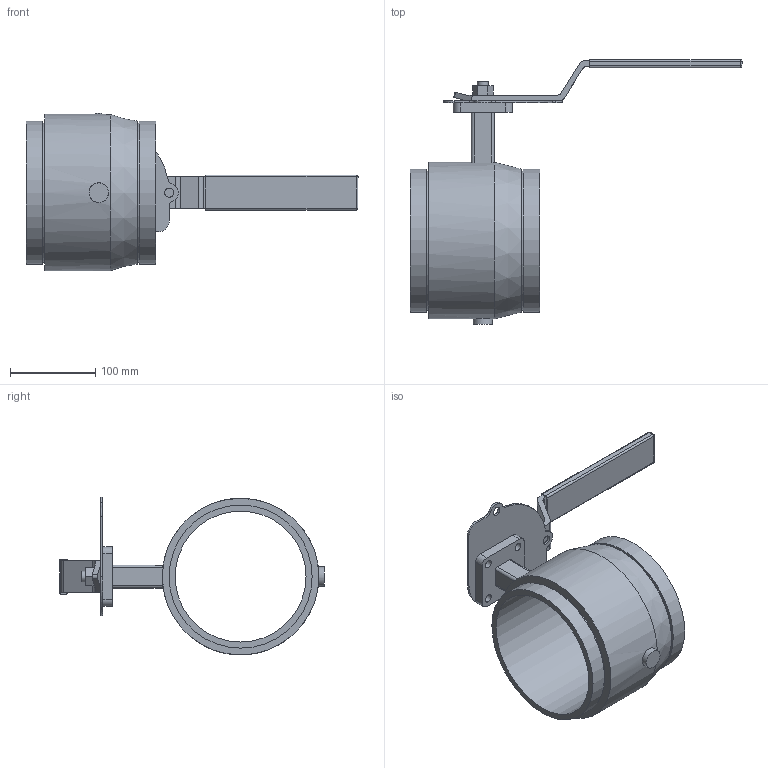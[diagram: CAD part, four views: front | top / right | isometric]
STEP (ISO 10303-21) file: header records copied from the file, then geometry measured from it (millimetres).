
FILE_DESCRIPTION(/* description */ ('VIC STRENGTHIN 300 MASTERSEAL BUTTERFLY VALVE E461 w/LH','CAx-IF Rec.Pracs.---Representation and Presentation of Product Manufacturing Information (PMI)---4.0---2014-10-13'),/* implementation_level */ '2;1');
FILE_NAME(/* name */ 'C:\Users\Vjadhav\AppData\Roaming\Autodesk\ApplicationPlugins\Back Up\Victaulic_SS-StrengThin 100_Valve Butterfly Lever Handle_Series E461 (ST1)\Victaulic_SS-StrengThin 100_Valve Butterfly Lever Handle_6 (150).stp',/* time_stamp */ '2020-07-07T16:33:53+05:00',/* author */ ('jbrannon'),/* organization */ ('Victaulic'),/* preprocessor_version */ 'ST-DEVELOPER v17.2',/* originating_system */ 'Autodesk Inventor 2019',/* authorisation */ '');
FILE_SCHEMA (('AP242_MANAGED_MODEL_BASED_3D_ENGINEERING_MIM_LF { 1 0 10303 442 1 1 4 }'));
Length unit declared in the file: inch
Products named in the file (4): E461-06.0; E461-06.0_1; E461-06.0_2; E461-06.0_3
Assembly tree (3 placements, depth 2):
  E461-06.0
    E461-06.0_1
    E461-06.0_2
    E461-06.0_3
Bounding box: 390.39 x 311.41 x 185.54 mm (x, y, z)
Volume: 1193535.8 mm3; surface area: 261219.7 mm2
Topology: 3 solids, 3 shells, 107 faces, 273 edges, 181 vertices
Faces by surface type: cylinder 52, plane 50, sphere 4, cone 1
Full cylindrical faces by diameter (mm): 9.652 x8, 10.668 x2, 12.7 x2, 22.86 x1, 23.876 x1, 54.102 x1, 153.987 x1, 163.271 x2, 168.275 x2, 184.15 x1
Entity records: 3675 total; most frequent: CARTESIAN_POINT 639, DIRECTION 609, ORIENTED_EDGE 546, EDGE_CURVE 273, AXIS2_PLACEMENT_3D 229, VERTEX_POINT 181, LINE 151, VECTOR 151
